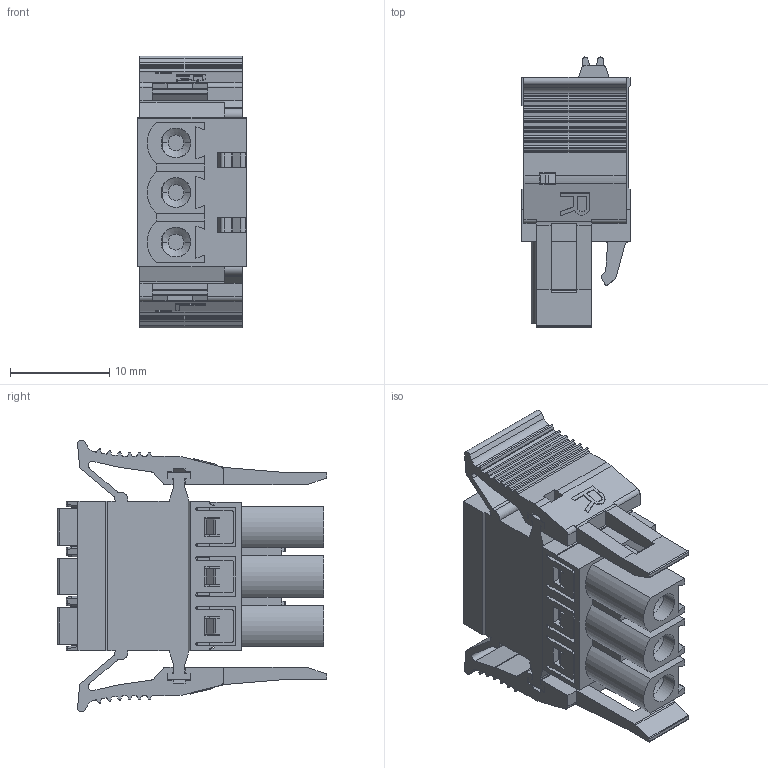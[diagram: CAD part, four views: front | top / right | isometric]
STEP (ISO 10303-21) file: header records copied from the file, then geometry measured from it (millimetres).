
FILE_DESCRIPTION((''),'2;1');
FILE_NAME('333','2019-04-11T',('zhenbing.lai'),(''),'CREO PARAMETRIC BY PTC INC, 2016260','CREO PARAMETRIC BY PTC INC, 2016260','');
FILE_SCHEMA(('CONFIG_CONTROL_DESIGN'));
Length unit declared in the file: millimetre
Products named in the file (1): 333
Bounding box: 10.9 x 27.2 x 27.4 mm (x, y, z)
Volume: 3949.9 mm3; surface area: 3769.6 mm2
Topology: 1 solids, 1 shells, 865 faces, 2491 edges, 1601 vertices
Faces by surface type: plane 512, cylinder 282, bspline 24, sphere 23, torus 18, cone 6
Entity records: 29024 total; most frequent: CARTESIAN_POINT 6108, ORIENTED_EDGE 4936, DIRECTION 4673, EDGE_CURVE 2468, VECTOR 1743, LINE 1743, VERTEX_POINT 1601, AXIS2_PLACEMENT_3D 1465
